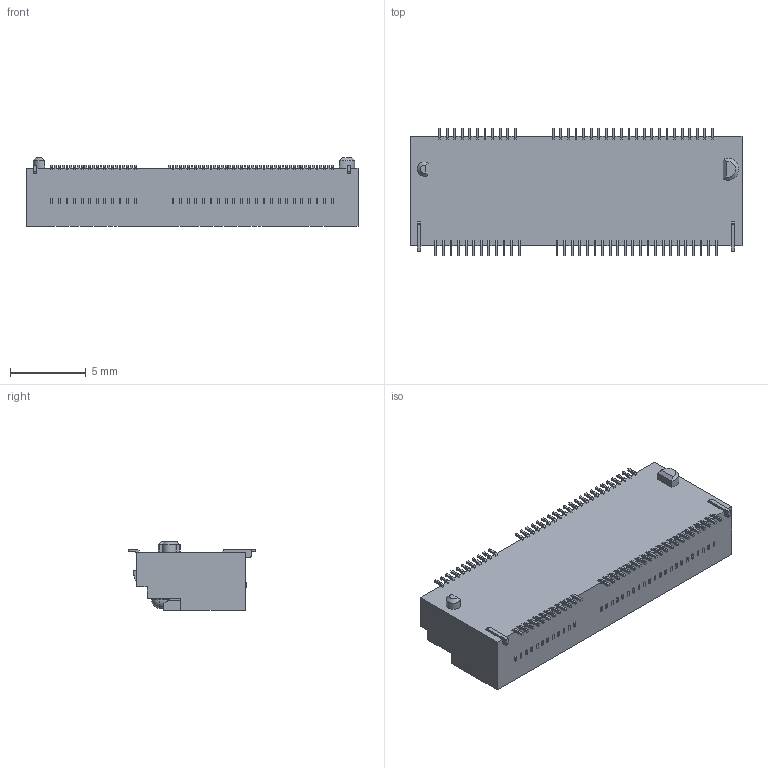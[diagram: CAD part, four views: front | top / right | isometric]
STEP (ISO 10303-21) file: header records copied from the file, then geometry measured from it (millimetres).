
FILE_DESCRIPTION((''),'2;1');
FILE_NAME('AC-12-NF25-XXX_A__M_2_4_0H_E_KE','2026-08-19T',('PMT1 SFT'),(''),'PRO/ENGINEER BY PARAMETRIC TECHNOLOGY CORPORATION, 2011490','PRO/ENGINEER BY PARAMETRIC TECHNOLOGY CORPORATION, 2011490','');
FILE_SCHEMA(('CONFIG_CONTROL_DESIGN'));
Products named in the file (1): AC-12-NF25-XXX_A__M_2_4_0H_E_KE
Bounding box: 21.9 x 8.39 x 4.55 mm (x, y, z)
Volume: 489.5 mm3; surface area: 794.3 mm2
Topology: 1 solids, 2 shells, 2309 faces, 6984 edges, 4744 vertices
Faces by surface type: plane 1652, cylinder 652, sphere 3, cone 2
Entity records: 78929 total; most frequent: CARTESIAN_POINT 14384, ORIENTED_EDGE 13962, DIRECTION 13109, EDGE_CURVE 6981, VECTOR 5315, LINE 5315, VERTEX_POINT 4744, AXIS2_PLACEMENT_3D 3897
